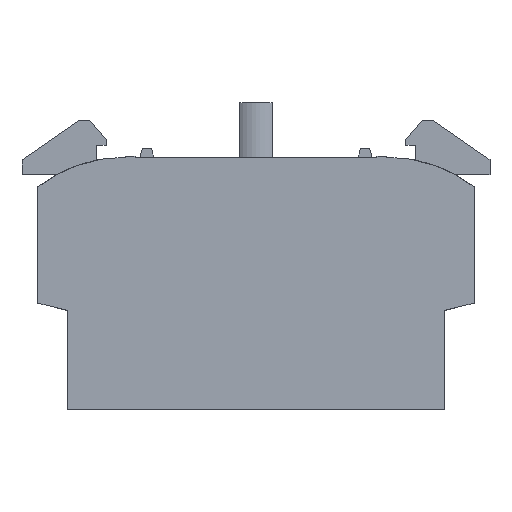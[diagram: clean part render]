
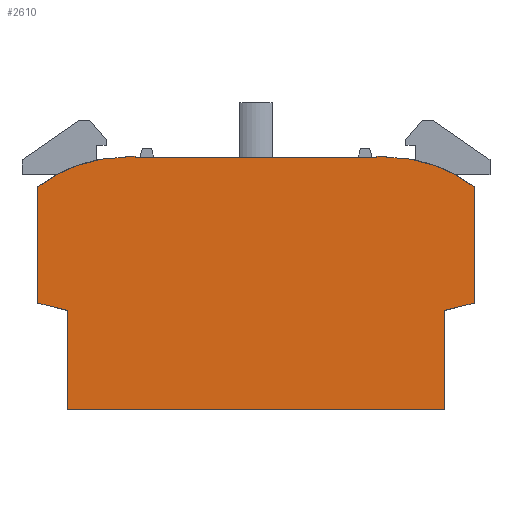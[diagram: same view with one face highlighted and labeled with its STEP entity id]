
A CAD part, top view. The second image highlights one B-rep face of the part: STEP entity #2610.
In plain terms, the highlighted planar face has unit normal (0, 0, 1).
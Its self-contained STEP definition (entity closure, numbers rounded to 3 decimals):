
#250 = EDGE_CURVE ( 'NONE', #1316, #500, #4569, .T. ) ;
#253 = EDGE_CURVE ( 'NONE', #1332, #1302, #4611, .T. ) ;
#256 = EDGE_CURVE ( 'NONE', #1302, #1283, #4614, .T. ) ;
#500 = VERTEX_POINT ( 'NONE', #2830 ) ;
#515 = VERTEX_POINT ( 'NONE', #2853 ) ;
#516 = VERTEX_POINT ( 'NONE', #2854 ) ;
#664 = EDGE_CURVE ( 'NONE', #1283, #1285, #2855, .T. ) ;
#670 = EDGE_CURVE ( 'NONE', #1285, #515, #2130, .T. ) ;
#674 = EDGE_CURVE ( 'NONE', #1363, #1287, #2881, .T. ) ;
#677 = EDGE_CURVE ( 'NONE', #1287, #1270, #2899, .T. ) ;
#679 = EDGE_CURVE ( 'NONE', #1267, #1383, #2873, .T. ) ;
#721 = EDGE_CURVE ( 'NONE', #1270, #1267, #3030, .T. ) ;
#732 = EDGE_CURVE ( 'NONE', #515, #1363, #3064, .T. ) ;
#745 = EDGE_CURVE ( 'NONE', #1383, #1389, #3092, .T. ) ;
#760 = EDGE_CURVE ( 'NONE', #1389, #1393, #3135, .T. ) ;
#773 = EDGE_CURVE ( 'NONE', #1393, #516, #2236, .T. ) ;
#776 = EDGE_CURVE ( 'NONE', #516, #1322, #3189, .T. ) ;
#779 = EDGE_CURVE ( 'NONE', #1322, #1316, #3206, .T. ) ;
#1064 = ORIENTED_EDGE ( 'NONE', *, *, #773, .T. ) ;
#1065 = ORIENTED_EDGE ( 'NONE', *, *, #776, .T. ) ;
#1066 = ORIENTED_EDGE ( 'NONE', *, *, #779, .T. ) ;
#1067 = ORIENTED_EDGE ( 'NONE', *, *, #250, .T. ) ;
#1068 = ORIENTED_EDGE ( 'NONE', *, *, #2637, .T. ) ;
#1069 = ORIENTED_EDGE ( 'NONE', *, *, #253, .T. ) ;
#1070 = ORIENTED_EDGE ( 'NONE', *, *, #256, .T. ) ;
#1071 = ORIENTED_EDGE ( 'NONE', *, *, #664, .T. ) ;
#1072 = ORIENTED_EDGE ( 'NONE', *, *, #670, .T. ) ;
#1073 = ORIENTED_EDGE ( 'NONE', *, *, #732, .T. ) ;
#1074 = ORIENTED_EDGE ( 'NONE', *, *, #674, .T. ) ;
#1075 = ORIENTED_EDGE ( 'NONE', *, *, #677, .T. ) ;
#1076 = ORIENTED_EDGE ( 'NONE', *, *, #721, .T. ) ;
#1077 = ORIENTED_EDGE ( 'NONE', *, *, #679, .T. ) ;
#1078 = ORIENTED_EDGE ( 'NONE', *, *, #745, .T. ) ;
#1079 = ORIENTED_EDGE ( 'NONE', *, *, #760, .T. ) ;
#1267 = VERTEX_POINT ( 'NONE', #4310 ) ;
#1270 = VERTEX_POINT ( 'NONE', #4313 ) ;
#1283 = VERTEX_POINT ( 'NONE', #4326 ) ;
#1285 = VERTEX_POINT ( 'NONE', #4328 ) ;
#1287 = VERTEX_POINT ( 'NONE', #4330 ) ;
#1302 = VERTEX_POINT ( 'NONE', #4345 ) ;
#1316 = VERTEX_POINT ( 'NONE', #4359 ) ;
#1322 = VERTEX_POINT ( 'NONE', #4365 ) ;
#1332 = VERTEX_POINT ( 'NONE', #4375 ) ;
#1363 = VERTEX_POINT ( 'NONE', #3282 ) ;
#1383 = VERTEX_POINT ( 'NONE', #3302 ) ;
#1389 = VERTEX_POINT ( 'NONE', #3308 ) ;
#1393 = VERTEX_POINT ( 'NONE', #3312 ) ;
#1418 = AXIS2_PLACEMENT_3D ( 'NONE', #3418, #3429, #3430 ) ;
#1491 = VECTOR ( 'NONE', #3521, 1000. ) ;
#1881 = EDGE_LOOP ( 'NONE', ( #1064, #1065, #1066, #1067, #1068, #1069, #1070, #1071, #1072, #1073, #1074, #1075, #1076, #1077, #1078, #1079 ) ) ;
#2016 = VECTOR ( 'NONE', #4612, 1000. ) ;
#2017 = VECTOR ( 'NONE', #4620, 1000. ) ;
#2018 = VECTOR ( 'NONE', #4629, 1000. ) ;
#2095 = VECTOR ( 'NONE', #2861, 1000. ) ;
#2130 = CIRCLE ( 'NONE', #2133, 14.407 ) ;
#2133 = AXIS2_PLACEMENT_3D ( 'NONE', #2878, #2879, #2880 ) ;
#2134 = VECTOR ( 'NONE', #2892, 1000. ) ;
#2137 = VECTOR ( 'NONE', #2907, 1000. ) ;
#2140 = VECTOR ( 'NONE', #2901, 1000. ) ;
#2184 = VECTOR ( 'NONE', #3032, 1000. ) ;
#2197 = VECTOR ( 'NONE', #3066, 1000. ) ;
#2208 = VECTOR ( 'NONE', #3103, 1000. ) ;
#2222 = VECTOR ( 'NONE', #3152, 1000. ) ;
#2236 = CIRCLE ( 'NONE', #2242, 14.407 ) ;
#2240 = VECTOR ( 'NONE', #3199, 1000. ) ;
#2242 = AXIS2_PLACEMENT_3D ( 'NONE', #3190, #3191, #3192 ) ;
#2246 = VECTOR ( 'NONE', #3209, 1000. ) ;
#2610 = ADVANCED_FACE ( 'NONE', ( #3426 ), #3427, .F. ) ;
#2637 = EDGE_CURVE ( 'NONE', #500, #1332, #3519, .T. ) ;
#2830 = CARTESIAN_POINT ( 'NONE',  ( 12.2, 0., 4.95 ) ) ;
#2853 = CARTESIAN_POINT ( 'NONE',  ( -22., -3., 4.95 ) ) ;
#2854 = CARTESIAN_POINT ( 'NONE',  ( 13.2, 0., 4.95 ) ) ;
#2855 = LINE ( 'NONE', #2860, #2095 ) ;
#2860 = CARTESIAN_POINT ( 'NONE',  ( -13.2, 0., 4.95 ) ) ;
#2861 = DIRECTION ( 'NONE',  ( 0., -1., 0. ) ) ;
#2873 = LINE ( 'NONE', #2906, #2137 ) ;
#2878 = CARTESIAN_POINT ( 'NONE',  ( -13.2, -14.407, 4.95 ) ) ;
#2879 = DIRECTION ( 'NONE',  ( 0., 0., 1. ) ) ;
#2880 = DIRECTION ( 'NONE',  ( 1., 0., 0. ) ) ;
#2881 = LINE ( 'NONE', #2891, #2134 ) ;
#2891 = CARTESIAN_POINT ( 'NONE',  ( -22., -14.7, 4.95 ) ) ;
#2892 = DIRECTION ( 'NONE',  ( 0.97, -0.242, 0. ) ) ;
#2899 = LINE ( 'NONE', #2900, #2140 ) ;
#2900 = CARTESIAN_POINT ( 'NONE',  ( -19., -15.448, 4.95 ) ) ;
#2901 = DIRECTION ( 'NONE',  ( 0., -1., 0. ) ) ;
#2906 = CARTESIAN_POINT ( 'NONE',  ( 19., -15.448, 4.95 ) ) ;
#2907 = DIRECTION ( 'NONE',  ( 0., 1., 0. ) ) ;
#3030 = LINE ( 'NONE', #3031, #2184 ) ;
#3031 = CARTESIAN_POINT ( 'NONE',  ( -19., -25.4, 4.95 ) ) ;
#3032 = DIRECTION ( 'NONE',  ( 1., 0., 0. ) ) ;
#3064 = LINE ( 'NONE', #3065, #2197 ) ;
#3065 = CARTESIAN_POINT ( 'NONE',  ( -22., -3., 4.95 ) ) ;
#3066 = DIRECTION ( 'NONE',  ( 0., -1., 0. ) ) ;
#3092 = LINE ( 'NONE', #3102, #2208 ) ;
#3102 = CARTESIAN_POINT ( 'NONE',  ( 19., -15.448, 4.95 ) ) ;
#3103 = DIRECTION ( 'NONE',  ( 0.97, 0.242, 0. ) ) ;
#3135 = LINE ( 'NONE', #3151, #2222 ) ;
#3151 = CARTESIAN_POINT ( 'NONE',  ( 22., -3., 4.95 ) ) ;
#3152 = DIRECTION ( 'NONE',  ( 0., 1., 0. ) ) ;
#3189 = LINE ( 'NONE', #3198, #2240 ) ;
#3190 = CARTESIAN_POINT ( 'NONE',  ( 13.2, -14.407, 4.95 ) ) ;
#3191 = DIRECTION ( 'NONE',  ( 0., 0., 1. ) ) ;
#3192 = DIRECTION ( 'NONE',  ( -1., 0., 0. ) ) ;
#3198 = CARTESIAN_POINT ( 'NONE',  ( 13.2, 0., 4.95 ) ) ;
#3199 = DIRECTION ( 'NONE',  ( 0., 1., 0. ) ) ;
#3206 = LINE ( 'NONE', #3208, #2246 ) ;
#3208 = CARTESIAN_POINT ( 'NONE',  ( 13.2, 0.1, 4.95 ) ) ;
#3209 = DIRECTION ( 'NONE',  ( -1., 0., 0. ) ) ;
#3282 = CARTESIAN_POINT ( 'NONE',  ( -22., -14.7, 4.95 ) ) ;
#3302 = CARTESIAN_POINT ( 'NONE',  ( 19., -15.448, 4.95 ) ) ;
#3308 = CARTESIAN_POINT ( 'NONE',  ( 22., -14.7, 4.95 ) ) ;
#3312 = CARTESIAN_POINT ( 'NONE',  ( 22., -3., 4.95 ) ) ;
#3418 = CARTESIAN_POINT ( 'NONE',  ( 13.2, -14.407, 4.95 ) ) ;
#3426 = FACE_OUTER_BOUND ( 'NONE', #1881, .T. ) ;
#3427 = PLANE ( 'NONE',  #1418 ) ;
#3429 = DIRECTION ( 'NONE',  ( 0., 0., -1. ) ) ;
#3430 = DIRECTION ( 'NONE',  ( -1., 0., 0. ) ) ;
#3519 = LINE ( 'NONE', #3520, #1491 ) ;
#3520 = CARTESIAN_POINT ( 'NONE',  ( -12.2, 0., 4.95 ) ) ;
#3521 = DIRECTION ( 'NONE',  ( -1., 0., 0. ) ) ;
#4310 = CARTESIAN_POINT ( 'NONE',  ( 19., -25.4, 4.95 ) ) ;
#4313 = CARTESIAN_POINT ( 'NONE',  ( -19., -25.4, 4.95 ) ) ;
#4326 = CARTESIAN_POINT ( 'NONE',  ( -13.2, 0.1, 4.95 ) ) ;
#4328 = CARTESIAN_POINT ( 'NONE',  ( -13.2, 0., 4.95 ) ) ;
#4330 = CARTESIAN_POINT ( 'NONE',  ( -19., -15.448, 4.95 ) ) ;
#4345 = CARTESIAN_POINT ( 'NONE',  ( -12.2, 0.1, 4.95 ) ) ;
#4359 = CARTESIAN_POINT ( 'NONE',  ( 12.2, 0.1, 4.95 ) ) ;
#4365 = CARTESIAN_POINT ( 'NONE',  ( 13.2, 0.1, 4.95 ) ) ;
#4375 = CARTESIAN_POINT ( 'NONE',  ( -12.2, 0., 4.95 ) ) ;
#4569 = LINE ( 'NONE', #4610, #2016 ) ;
#4610 = CARTESIAN_POINT ( 'NONE',  ( 12.2, 0., 4.95 ) ) ;
#4611 = LINE ( 'NONE', #4619, #2017 ) ;
#4612 = DIRECTION ( 'NONE',  ( 0., -1., 0. ) ) ;
#4614 = LINE ( 'NONE', #4628, #2018 ) ;
#4619 = CARTESIAN_POINT ( 'NONE',  ( -12.2, 0., 4.95 ) ) ;
#4620 = DIRECTION ( 'NONE',  ( 0., 1., 0. ) ) ;
#4628 = CARTESIAN_POINT ( 'NONE',  ( -13.2, 0.1, 4.95 ) ) ;
#4629 = DIRECTION ( 'NONE',  ( -1., 0., 0. ) ) ;
